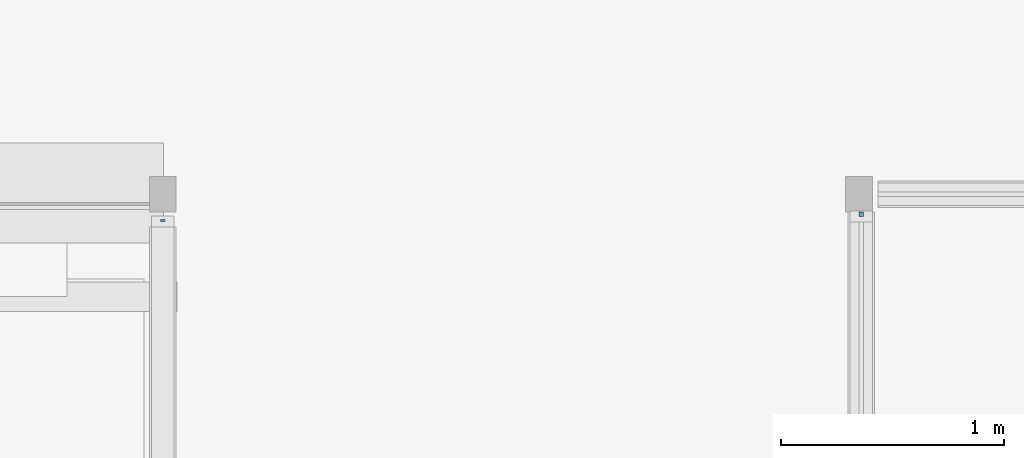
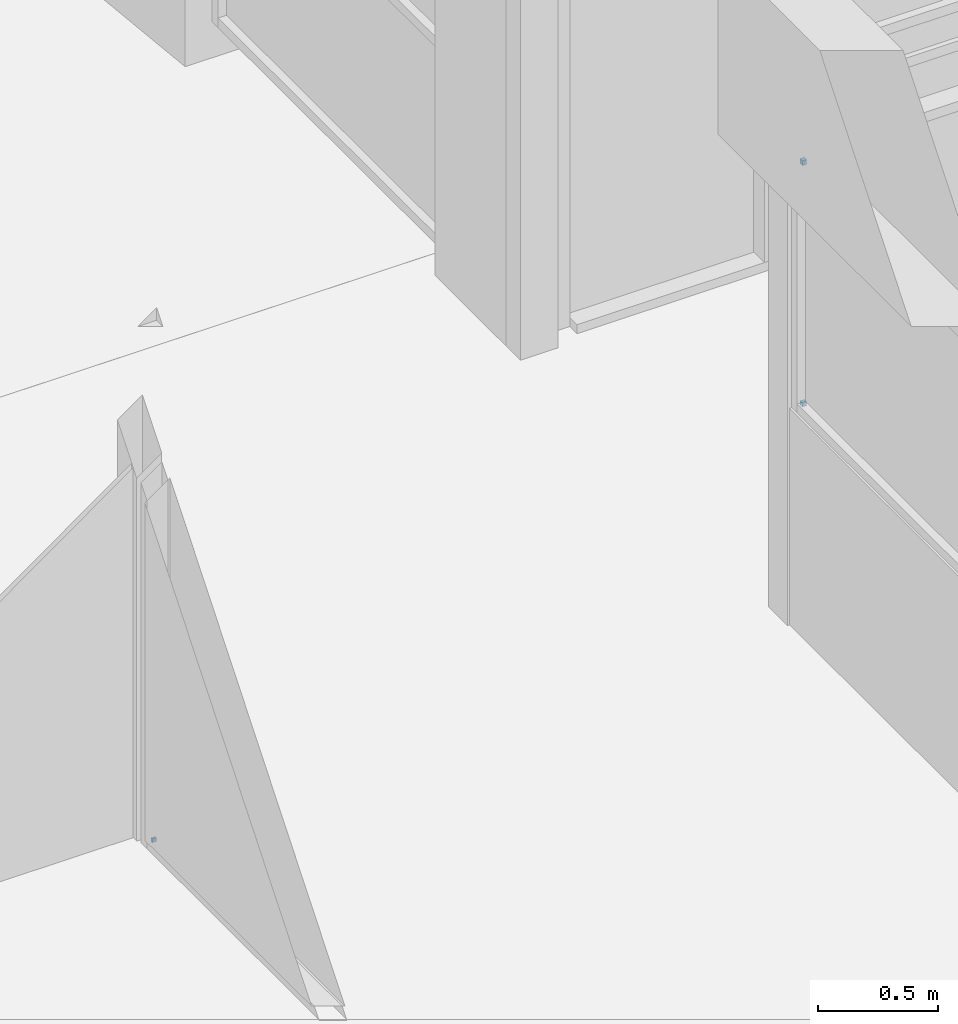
# One storey, part 64 of 117: 3 plates, 2 elements without a shape of their own.
"""IFC4 building model written with IfcOpenShell, lengths in metres."""

import ifcopenshell
import ifcopenshell.guid

model = None  # the IFC model being written
_history = None  # IfcOwnerHistory: only IFC2X3 demands one
_inside = {}  # id of a spatial element -> (the spatial element, [elements in it])
_under = {}  # id of a project, library or spatial element -> (it, [spatial elements below it])
_declared = {}  # id of a project -> (the project, [libraries it declares])
_typed = {}  # id of a type object -> (the type object, [elements of that type])
_made_of = {}  # id of a material, layer set ... -> (it, [elements and type objects made of it])


def new_model(schema):
    """Start an empty IFC model of exactly this schema.

    Asked for "IFC4X3", IfcOpenShell would pick the latest addendum, in which some entities
    have other attributes; the version numbers below select the first issue.
    IFC2X3 requires an IfcOwnerHistory on every rooted entity: one is made here for all.
    """
    global model, _history
    if schema == "IFC4X3":
        model = ifcopenshell.file(schema_version=(4, 3, 0, 0))
    else:
        model = ifcopenshell.file(schema=schema)
    _inside.clear()
    _under.clear()
    _declared.clear()
    _typed.clear()
    _made_of.clear()
    _history = None
    if model.schema == "IFC2X3":
        org = make("IfcOrganization", Name="unknown")
        user = make(
            "IfcPersonAndOrganization",
            ThePerson=make("IfcPerson", FamilyName="unknown"),
            TheOrganization=org,
        )
        app = make(
            "IfcApplication",
            ApplicationDeveloper=org,
            Version="unknown",
            ApplicationFullName="unknown",
            ApplicationIdentifier="unknown",
        )
        _history = make(
            "IfcOwnerHistory",
            OwningUser=user,
            OwningApplication=app,
            ChangeAction="ADDED",
            CreationDate=0,
        )
    return model


def make(cls, **values):
    """One entity of the class cls with the attributes given. An attribute that is None is left unset."""
    return model.create_entity(
        cls, **{name: value for name, value in values.items() if value is not None}
    )


def entity(cls, *values):
    """Any entity or typed value of the class cls, its attributes in the order of the schema. None: left unset."""
    e = model.create_entity(cls)
    for i, value in enumerate(values):
        if value is not None:
            e[i] = value
    return e


def rooted(cls, **values):
    """An entity with a GlobalId (a new one), such as an element, a storey or a relation."""
    return make(cls, GlobalId=ifcopenshell.guid.new(), OwnerHistory=_history, **values)


def si_unit(unit_type, name, prefix=None):
    """IfcSIUnit, for example si_unit("LENGTHUNIT", "METRE", prefix="MILLI")."""
    return make("IfcSIUnit", UnitType=unit_type, Prefix=prefix, Name=name)


def converted_unit(unit_type, name, factor, base, dimensions=None, offset=None):
    """IfcConversionBasedUnit, such as the inch: factor (a typed value) times the base unit."""
    return make(
        "IfcConversionBasedUnit"
        if offset is None
        else "IfcConversionBasedUnitWithOffset",
        ConversionOffset=offset,
        Dimensions=None
        if dimensions is None
        else entity("IfcDimensionalExponents", *dimensions),
        UnitType=unit_type,
        Name=name,
        ConversionFactor=make(
            "IfcMeasureWithUnit", ValueComponent=factor, UnitComponent=base
        ),
    )


def derived_unit(unit_type, elements):
    """IfcDerivedUnit: a product of units, each with its exponent."""
    return make(
        "IfcDerivedUnit",
        Elements=[
            make("IfcDerivedUnitElement", Unit=unit, Exponent=power)
            for unit, power in elements
        ],
        UnitType=unit_type,
    )


def assignment(units):
    """IfcUnitAssignment: the units of a project."""
    return None if units is None else make("IfcUnitAssignment", Units=units)


def point(xyz):
    """IfcCartesianPoint."""
    return None if xyz is None else make("IfcCartesianPoint", Coordinates=xyz)


def direction(xyz):
    """IfcDirection."""
    return None if xyz is None else make("IfcDirection", DirectionRatios=xyz)


def frame(location, z_axis=None, x_axis=None):
    """IfcAxis2Placement3D, a coordinate frame: its origin and axes. An axis left out is left unset."""
    return make(
        "IfcAxis2Placement3D",
        Location=point(location),
        Axis=direction(z_axis),
        RefDirection=direction(x_axis),
    )


def origin():
    """The frame at (0, 0, 0) with its axes left unset."""
    return frame((0.0, 0.0, 0.0))


def place(relative_to, where):
    """IfcLocalPlacement: puts the frame where relative to a parent placement (None: the world)."""
    return make(
        "IfcLocalPlacement", PlacementRelTo=relative_to, RelativePlacement=where
    )


def context(
    kind, dimensions, precision=None, world=None, true_north=None, identifier=None
):
    """IfcGeometricRepresentationContext, for example the 3D "Model" context."""
    return make(
        "IfcGeometricRepresentationContext",
        ContextIdentifier=identifier,
        ContextType=kind,
        CoordinateSpaceDimension=dimensions,
        Precision=precision,
        WorldCoordinateSystem=world,
        TrueNorth=true_north,
    )


def subcontext(parent, identifier, kind, view, scale=None):
    """IfcGeometricRepresentationSubContext, for example "Body" below "Model"."""
    return make(
        "IfcGeometricRepresentationSubContext",
        ContextIdentifier=identifier,
        ContextType=kind,
        ParentContext=parent,
        TargetScale=scale,
        TargetView=view,
    )


def project(units=None, contexts=None):
    """IfcProject with its units and contexts."""
    return rooted(
        "IfcProject",
        Name="project",
        RepresentationContexts=contexts,
        UnitsInContext=assignment(units),
    )


def spatial(cls, under=None, at=None, **own):
    """A site, building, storey or space (cls), placed at a placement, below another one or the project."""
    s = rooted(cls, ObjectPlacement=at, **own)
    if under is not None:
        _under.setdefault(under.id(), (under, []))[1].append(s)
    return s


def point_list(points):
    """IfcCartesianPointList2D or 3D."""
    cls = (
        "IfcCartesianPointList2D" if len(points[0]) == 2 else "IfcCartesianPointList3D"
    )
    return make(cls, CoordList=points)


def indexed_curve(points, segments=None, self_intersect=None):
    """IfcIndexedPolyCurve: lines and arcs through numbered points (the first is 1)."""
    return make(
        "IfcIndexedPolyCurve",
        Points=point_list(points),
        Segments=segments,
        SelfIntersect=self_intersect,
    )


def outline(outer, holes=None, kind="AREA"):
    """IfcArbitraryClosedProfileDef: a profile drawn as a closed curve; with holes, ...WithVoids."""
    if holes is None:
        return make("IfcArbitraryClosedProfileDef", ProfileType=kind, OuterCurve=outer)
    return make(
        "IfcArbitraryProfileDefWithVoids",
        ProfileType=kind,
        OuterCurve=outer,
        InnerCurves=holes,
    )


def extrude(swept, where, along, depth):
    """IfcExtrudedAreaSolid: the profile swept, set in the frame where, extruded along a direction by depth."""
    return make(
        "IfcExtrudedAreaSolid",
        SweptArea=swept,
        Position=where,
        ExtrudedDirection=direction(along),
        Depth=depth,
    )


def shape(context_of_items, identifier, shape_type, items):
    """IfcShapeRepresentation: the items that make up one representation, for example the "Body"."""
    return make(
        "IfcShapeRepresentation",
        ContextOfItems=context_of_items,
        RepresentationIdentifier=identifier,
        RepresentationType=shape_type,
        Items=items,
    )


def source(mapping_origin, context_of_items, identifier, shape_type, items):
    """IfcRepresentationMap: a shape defined once, which mapped items show again and again."""
    return make(
        "IfcRepresentationMap",
        MappingOrigin=mapping_origin,
        MappedRepresentation=shape(context_of_items, identifier, shape_type, items),
    )


def transform(
    local_origin,
    x_axis=None,
    y_axis=None,
    z_axis=None,
    scale=None,
    scale2=None,
    scale3=None,
    uniform=True,
):
    """IfcCartesianTransformationOperator3D, or its non-uniform kind. x_axis, y_axis, z_axis: its Axis1, 2, 3."""
    if uniform:
        return make(
            "IfcCartesianTransformationOperator3D",
            Axis1=direction(x_axis),
            Axis2=direction(y_axis),
            LocalOrigin=point(local_origin),
            Scale=scale,
            Axis3=direction(z_axis),
        )
    return make(
        "IfcCartesianTransformationOperator3DnonUniform",
        Axis1=direction(x_axis),
        Axis2=direction(y_axis),
        LocalOrigin=point(local_origin),
        Scale=scale,
        Axis3=direction(z_axis),
        Scale2=scale2,
        Scale3=scale3,
    )


def mapped(mapping_source, mapping_target):
    """IfcMappedItem: shows the shape of a source again, moved by a transform."""
    return make(
        "IfcMappedItem", MappingSource=mapping_source, MappingTarget=mapping_target
    )


def material(Name=None, Category=None):
    """IfcMaterial."""
    return make("IfcMaterial", Name=Name, Category=Category)


def made_of(thing, what):
    """Note that an element or type object is made of a material, layer set ...; save() writes the relation."""
    if what is not None:
        _made_of.setdefault(what.id(), (what, []))[1].append(thing)
    return thing


def type_object(cls, material=None, **own):
    """A type object (cls), such as IfcWallType, which elements share."""
    return made_of(rooted(cls, **own), material)


def type_shapes(of_type, sources):
    """Give a type object the sources (RepresentationMaps) that its elements show as mapped items."""
    of_type.RepresentationMaps = sources


def element(
    cls,
    number,
    at=None,
    inside=None,
    cuts=None,
    type_object=None,
    material=None,
    context=None,
    identifier="Body",
    shape_type=None,
    held_by="IfcProductDefinitionShape",
    body=None,
    shapes=None,
    **own,
):
    """One element of the class cls, such as IfcWall. Its Tag is "e" and its number.

    at: its placement. inside: the storey or other place that contains it. cuts: it is an
    opening in that element (IfcRelVoidsElement). A single representation is given by context,
    identifier, shape_type and body (its items); several are given by shapes. held_by: the class
    of the entity that holds the representations. save() writes the other relations.
    """
    e = rooted(cls, Tag="e%d" % number, ObjectPlacement=at, **own)
    if body is not None:
        shapes = [shape(context, identifier, shape_type, body)]
    if shapes is not None:
        e.Representation = make(held_by, Representations=shapes)
    if inside is not None:
        _inside.setdefault(inside.id(), (inside, []))[1].append(e)
    if cuts is not None:
        rooted(
            "IfcRelVoidsElement", RelatingBuildingElement=cuts, RelatedOpeningElement=e
        )
    if type_object is not None:
        _typed.setdefault(type_object.id(), (type_object, []))[1].append(e)
    return made_of(e, material)


def aggregate(whole, parts):
    """IfcRelAggregates: a whole, such as a stair, and the parts it consists of."""
    return rooted("IfcRelAggregates", RelatingObject=whole, RelatedObjects=parts)


def save(model, path):
    """Write the relations noted so far, then the file.

    IfcRelAggregates (storeys below a building ...), IfcRelContainedInSpatialStructure (elements
    in a storey), IfcRelDefinesByType, IfcRelAssociatesMaterial and IfcRelDeclares: one each for
    every whole, place, type object, material and project.
    """
    for whole, parts in _under.values():
        aggregate(whole, parts)
    for where, things in _inside.values():
        rooted(
            "IfcRelContainedInSpatialStructure",
            RelatedElements=things,
            RelatingStructure=where,
        )
    for kind, things in _typed.values():
        rooted("IfcRelDefinesByType", RelatedObjects=things, RelatingType=kind)
    for what, things in _made_of.values():
        rooted("IfcRelAssociatesMaterial", RelatedObjects=things, RelatingMaterial=what)
    for by, libraries in _declared.values():
        rooted("IfcRelDeclares", RelatingContext=by, RelatedDefinitions=libraries)
    model.write(path)


model = new_model("IFC4")

# Units and contexts
model_context = context("Model", 3, precision=1e-05, world=origin(), true_north=direction((6.123031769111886e-17, 1.0)))
body_context = subcontext(model_context, "Body", "Model", "MODEL_VIEW")
ifc_project = project(units=[si_unit("LENGTHUNIT", "METRE"), si_unit("AREAUNIT", "SQUARE_METRE"), si_unit("VOLUMEUNIT", "CUBIC_METRE"), converted_unit("PLANEANGLEUNIT", "DEGREE", entity("IfcRatioMeasure", 0.017453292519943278), si_unit("PLANEANGLEUNIT", "RADIAN"), dimensions=[0, 0, 0, 0, 0, 0, 0]), si_unit("MASSUNIT", "GRAM", prefix="KILO"), derived_unit("MASSDENSITYUNIT", [(si_unit("MASSUNIT", "GRAM", prefix="KILO"), 1), (si_unit("LENGTHUNIT", "METRE"), -3)]), derived_unit("MOMENTOFINERTIAUNIT", [(si_unit("LENGTHUNIT", "METRE"), 4)]), si_unit("TIMEUNIT", "SECOND"), si_unit("FREQUENCYUNIT", "HERTZ"), si_unit("THERMODYNAMICTEMPERATUREUNIT", "DEGREE_CELSIUS"), derived_unit("THERMALTRANSMITTANCEUNIT", [(si_unit("MASSUNIT", "GRAM", prefix="KILO"), 1), (si_unit("THERMODYNAMICTEMPERATUREUNIT", "KELVIN"), -1), (si_unit("TIMEUNIT", "SECOND"), -3)]), derived_unit("VOLUMETRICFLOWRATEUNIT", [(si_unit("LENGTHUNIT", "METRE"), 3), (si_unit("TIMEUNIT", "SECOND"), -1)]), derived_unit("MASSFLOWRATEUNIT", [(si_unit("MASSUNIT", "GRAM", prefix="KILO"), 1), (si_unit("TIMEUNIT", "SECOND"), -1)]), derived_unit("ROTATIONALFREQUENCYUNIT", [(si_unit("TIMEUNIT", "SECOND"), -1)]), si_unit("ELECTRICCURRENTUNIT", "AMPERE"), si_unit("ELECTRICVOLTAGEUNIT", "VOLT"), si_unit("POWERUNIT", "WATT"), si_unit("FORCEUNIT", "NEWTON", prefix="KILO"), si_unit("ILLUMINANCEUNIT", "LUX"), si_unit("LUMINOUSFLUXUNIT", "LUMEN"), si_unit("LUMINOUSINTENSITYUNIT", "CANDELA"), derived_unit("USERDEFINED", [(si_unit("MASSUNIT", "GRAM", prefix="KILO"), -1), (si_unit("LENGTHUNIT", "METRE"), -2), (si_unit("TIMEUNIT", "SECOND"), 3), (si_unit("LUMINOUSFLUXUNIT", "LUMEN"), 1)]), derived_unit("SOUNDPOWERUNIT", [(si_unit("MASSUNIT", "GRAM", prefix="KILO"), 1), (si_unit("LENGTHUNIT", "METRE"), 2), (si_unit("TIMEUNIT", "SECOND"), -3)]), derived_unit("SOUNDPRESSUREUNIT", [(si_unit("MASSUNIT", "GRAM", prefix="KILO"), 1), (si_unit("LENGTHUNIT", "METRE"), -1), (si_unit("TIMEUNIT", "SECOND"), -2)]), derived_unit("LINEARVELOCITYUNIT", [(si_unit("LENGTHUNIT", "METRE"), 1), (si_unit("TIMEUNIT", "SECOND"), -1)]), si_unit("PRESSUREUNIT", "PASCAL"), derived_unit("USERDEFINED", [(si_unit("LENGTHUNIT", "METRE"), -2), (si_unit("MASSUNIT", "GRAM", prefix="KILO"), 1), (si_unit("TIMEUNIT", "SECOND"), -2)]), derived_unit("LINEARFORCEUNIT", [(si_unit("MASSUNIT", "GRAM", prefix="KILO"), 1), (si_unit("LENGTHUNIT", "METRE"), 1), (si_unit("TIMEUNIT", "SECOND"), -2), (si_unit("LENGTHUNIT", "METRE"), -1)]), derived_unit("PLANARFORCEUNIT", [(si_unit("MASSUNIT", "GRAM", prefix="KILO"), 1), (si_unit("LENGTHUNIT", "METRE"), 1), (si_unit("TIMEUNIT", "SECOND"), -2), (si_unit("LENGTHUNIT", "METRE"), -2)])], contexts=[model_context])

# Site, building, storey
site_placement = place(None, origin())
site = spatial("IfcSite", under=ifc_project, at=site_placement, Name="Superficie", CompositionType="ELEMENT")
building_placement = place(site_placement, origin())
building = spatial("IfcBuilding", under=site, at=building_placement, CompositionType="ELEMENT")
storey_placement = place(building_placement, origin())
storey = spatial("IfcBuildingStorey", under=building, at=storey_placement, Name="Nivel 0", CompositionType="ELEMENT", Elevation=0.0)

# Curtain wall, plate
curtain_wall_type = type_object("IfcCurtainWallType", Name="Muro cortina:Muro cortina - simple", PredefinedType="NOTDEFINED")
curtain_wall_1_placement = place(storey_placement, origin())
curtain_wall_1 = element("IfcCurtainWall", 1, at=curtain_wall_1_placement, inside=storey, type_object=curtain_wall_type, Name="Muro cortina:Muro cortina - simple", ObjectType="Muro cortina:Muro cortina - simple", PredefinedType="NOTDEFINED")
ifc_material = material(Name="Cristal", Category="Vidrio")
plate_type_1 = type_object("IfcPlateType", Name="Panel de sistema:Acristalado", PredefinedType="CURTAIN_PANEL", material=ifc_material)
shared_shape_1 = source(origin(), body_context, "Body", "SweptSolid", [
    extrude(outline(indexed_curve([(-0.01, -0.004999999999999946), (0.01, -0.004999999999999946), (0.01, 0.004999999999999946), (-0.01, 0.004999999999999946), (-0.01, -0.004999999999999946)], self_intersect=False)), frame((0.0, 0.0, 0.0), z_axis=(0.0, 0.0, 1.0), x_axis=(0.0, 1.0, 0.0)), (0.0, 0.0, 1.0), 0.01999999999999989),
])
type_shapes(plate_type_1, [shared_shape_1])
plate_1_placement = place(curtain_wall_1_placement, frame((12.781799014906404, 3.4072960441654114, 0.0), z_axis=(0.0, 0.0, 1.0), x_axis=(0.0, -1.0, 0.0)))
plate_1 = element("IfcPlate", 2, at=plate_1_placement, type_object=plate_type_1, material=ifc_material, Name="Panel de sistema:Acristalado", ObjectType="Panel de sistema:Acristalado", PredefinedType="CURTAIN_PANEL", context=body_context, shape_type="MappedRepresentation", body=[
    mapped(shared_shape_1, transform((0.0, 0.0, 0.0), scale=1.0)),
])
aggregate(curtain_wall_1, [plate_1])

# Curtain wall, plates
curtain_wall_2_placement = place(storey_placement, origin())
curtain_wall_2 = element("IfcCurtainWall", 3, at=curtain_wall_2_placement, inside=storey, type_object=curtain_wall_type, Name="Muro cortina:Muro cortina - simple", ObjectType="Muro cortina:Muro cortina - simple", PredefinedType="NOTDEFINED")
plate_type_2 = type_object("IfcPlateType", Name="Panel de sistema:Acristalado", PredefinedType="CURTAIN_PANEL", material=ifc_material)
shared_shape_2 = source(origin(), body_context, "Body", "SweptSolid", [
    extrude(outline(indexed_curve([(-0.01, -0.010000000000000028), (0.01, -0.010000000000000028), (0.01, 0.010000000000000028), (-0.01, 0.010000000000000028), (-0.01, -0.010000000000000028)], self_intersect=False)), frame((0.0, 0.0, 0.0), z_axis=(0.0, 0.0, 1.0), x_axis=(0.0, 1.0, 0.0)), (0.0, 0.0, 1.0), 0.025),
])
type_shapes(plate_type_2, [shared_shape_2])
plate_2_placement = place(curtain_wall_2_placement, frame((15.916799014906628, 3.435713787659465, 2.3249999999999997), z_axis=(0.0, 0.0, 1.0), x_axis=(0.0, -1.0, 0.0)))
plate_2 = element("IfcPlate", 4, at=plate_2_placement, type_object=plate_type_2, material=ifc_material, Name="Panel de sistema:Acristalado", ObjectType="Panel de sistema:Acristalado", PredefinedType="CURTAIN_PANEL", context=body_context, shape_type="MappedRepresentation", body=[
    mapped(shared_shape_2, transform((0.0, 0.0, 0.0), scale=1.0)),
])
plate_type_3 = type_object("IfcPlateType", Name="Panel de sistema:Acristalado", PredefinedType="CURTAIN_PANEL", material=ifc_material)
shared_shape_3 = source(origin(), body_context, "Body", "SweptSolid", [
    extrude(outline(indexed_curve([(-0.01, -0.009999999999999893), (0.01, -0.009999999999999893), (0.01, 0.009999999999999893), (-0.01, 0.009999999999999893), (-0.01, -0.009999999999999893)], self_intersect=False)), frame((0.0, 0.0, 0.0), z_axis=(0.0, 0.0, 1.0), x_axis=(0.0, 1.0, 0.0)), (0.0, 0.0, 1.0), 0.02000000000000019),
])
type_shapes(plate_type_3, [shared_shape_3])
plate_3_placement = place(curtain_wall_2_placement, frame((15.916799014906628, 3.435713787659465, 1.0999999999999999), z_axis=(0.0, 0.0, 1.0), x_axis=(0.0, -1.0, 0.0)))
plate_3 = element("IfcPlate", 5, at=plate_3_placement, type_object=plate_type_3, material=ifc_material, Name="Panel de sistema:Acristalado", ObjectType="Panel de sistema:Acristalado", PredefinedType="CURTAIN_PANEL", context=body_context, shape_type="MappedRepresentation", body=[
    mapped(shared_shape_3, transform((0.0, 0.0, 0.0), scale=1.0)),
])
aggregate(curtain_wall_2, [plate_3, plate_2])

save(model, "model.ifc")
